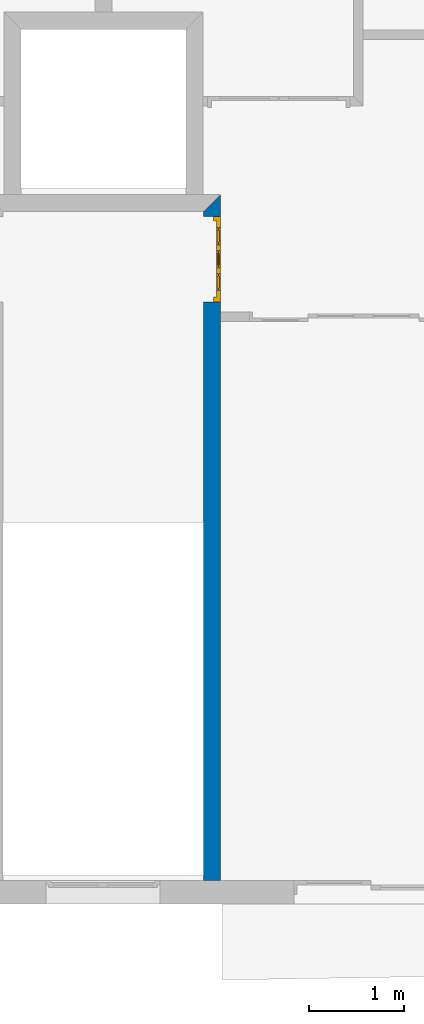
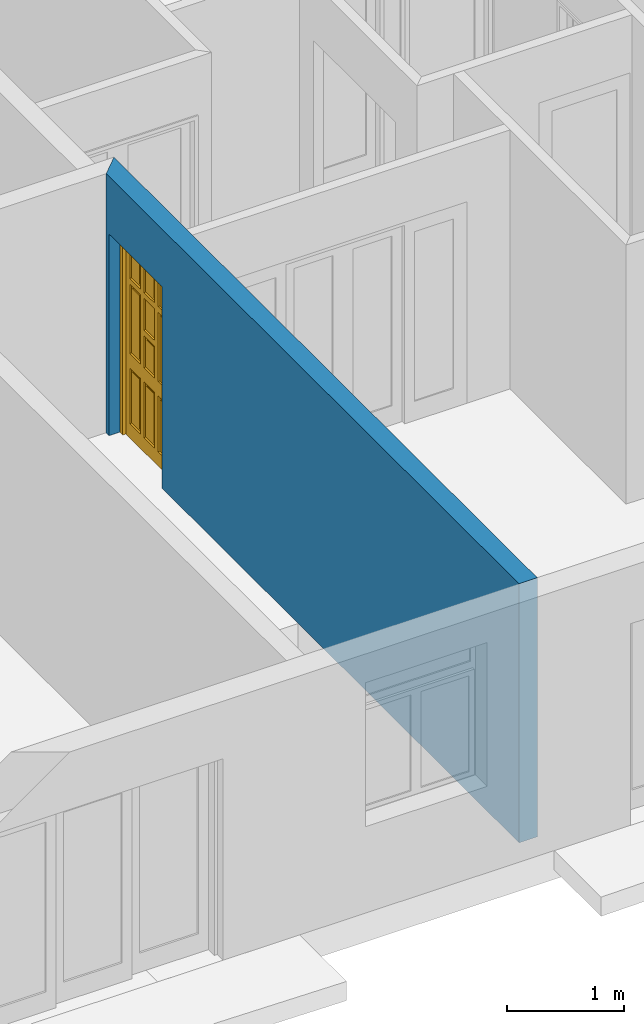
# One storey, part 7 of 12: 1 door, 1 wall, 1 opening.
"""IFC2X3 building model written with IfcOpenShell, lengths in metres."""

from ifc_helpers import new_model, entity, si_unit, converted_unit, direction, frame, frame_2d, origin_with_axes, place, context, project, spatial, polyline, rectangle, outline, extrude, faceted_brep, source, transform, mapped, material, layer, layer_set, layer_usage, type_object, element, fill, save


model = new_model("IFC2X3")

# Units and contexts
context_of_model = context(None, 3, precision=1e-05, world=origin_with_axes(), true_north=direction((6.123234e-17, 1.0)))
plan_context = context("Plan", 3, precision=1e-05, world=origin_with_axes(), true_north=direction((6.123234e-17, 1.0)))
model_context = context("Model", 3, precision=1e-05, world=origin_with_axes(), true_north=direction((6.123234e-17, 1.0)))
ifc_project = project(units=[si_unit("LENGTHUNIT", "METRE"), si_unit("AREAUNIT", "SQUARE_METRE"), si_unit("VOLUMEUNIT", "CUBIC_METRE"), converted_unit("PLANEANGLEUNIT", "DEGREE", entity("IfcPlaneAngleMeasure", 0.017453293), si_unit("PLANEANGLEUNIT", "RADIAN"), dimensions=[0, 0, 0, 0, 0, 0, 0]), si_unit("SOLIDANGLEUNIT", "STERADIAN"), si_unit("MASSUNIT", "GRAM"), si_unit("TIMEUNIT", "SECOND"), si_unit("THERMODYNAMICTEMPERATUREUNIT", "DEGREE_CELSIUS"), si_unit("LUMINOUSINTENSITYUNIT", "LUMEN")], contexts=[context_of_model, plan_context, model_context])

# Site, building, storey
site_placement = place(None, origin_with_axes())
site = spatial("IfcSite", under=ifc_project, at=site_placement, Name="Por defecto Sitio", CompositionType="ELEMENT")
building_placement = place(site_placement, origin_with_axes())
building = spatial("IfcBuilding", under=site, at=building_placement, Name="Por defecto Edificio", CompositionType="ELEMENT")
storey_placement = place(building_placement, frame((0.0, 0.0, 4.2), z_axis=(0.0, 0.0, 1.0), x_axis=(1.0, 0.0, 0.0)))
storey = spatial("IfcBuildingStorey", under=building, at=storey_placement, Name="Primera", CompositionType="ELEMENT", Elevation=4.2)

# Wall, opening, door
ifc_material = material(Name="Ladrillo común")
ifc_layer = layer(ifc_material, 0.18, ventilated="UNKNOWN")
ifc_layer_set = layer_set([ifc_layer], Name="Ladrillo común")
ifc_layer_usage = layer_usage(ifc_layer_set, "AXIS2", "POSITIVE", 0.0)
wall_type = type_object("IfcWallType", Name="Ladrillo común", PredefinedType="NOTDEFINED")
wall_placement = place(storey_placement, frame((9.0691698, 7.2976562, 0.0), z_axis=(0.0, 0.0, 1.0), x_axis=(0.0, -1.0, 0.0)))
wall = element("IfcWallStandardCase", 1, at=wall_placement, inside=storey, type_object=wall_type, material=ifc_layer_usage, Name="Muro-010", context=context_of_model, shape_type="SweptSolid", body=[
    extrude(outline(polyline([(0.0, 0.0), (7.0476562, 0.0), (7.0476562, 0.18), (-0.18, 0.18), (0.0, 0.0)])), origin_with_axes(), (0.0, 0.0, 1.0), 2.7),
])
opening_placement = place(wall_placement, frame((0.5, 0.0, 0.0), z_axis=(0.0, 0.0, 1.0), x_axis=(1.0, 0.0, 0.0)))
opening = element("IfcOpeningElement", 2, at=opening_placement, cuts=wall, ObjectType="Opening", context=model_context, shape_type="SweptSolid", body=[
    extrude(rectangle(XDim=0.9, YDim=2.1, at=frame_2d((0.0, 1.05), x_axis=(-1.0, 0.0))), frame((0.0, 0.0, 0.0), z_axis=(0.0, 1.0, 0.0), x_axis=(-1.0, 0.0, 0.0)), (0.0, 0.0, 1.0), 0.18),
])
door_style = type_object("IfcDoorStyle", Name="P1 Entrada 12", ConstructionType="NOTDEFINED", OperationType="SINGLE_SWING_RIGHT", ParameterTakesPrecedence=False, Sizeable=False)
shared_shape = source(origin_with_axes(), model_context, "Body", "Brep", [
    faceted_brep([(0.05, 0.031, 0.0), (0.05, 0.031, 2.05), (0.05, 0.0, 2.05), (0.05, 0.0, 0.0), (0.038, 0.031, 2.05), (0.038, 0.031, 0.0), (0.038, 0.075, 2.05), (0.0, 0.075, 2.05), (0.0, 0.0, 2.05), (0.0, 0.0, 0.0), (0.0, 0.075, 0.0), (0.038, 0.075, 0.0)], [[[0, 1, 2, 3]], [[4, 1, 0, 5]], [[4, 6, 7, 8, 2, 1]], [[9, 3, 2, 8]], [[5, 0, 3, 9, 10, 11]], [[6, 4, 5, 11]], [[6, 11, 10, 7]], [[8, 7, 10, 9]]]),
    faceted_brep([(0.862, 0.031, 2.05), (0.85, 0.031, 2.05), (0.85, 0.0, 2.05), (0.9, 0.0, 2.05), (0.9, 0.075, 2.05), (0.862, 0.075, 2.05), (0.862, 0.031, 0.0), (0.85, 0.031, 0.0), (0.85, 0.0, 0.0), (0.9, 0.0, 0.0), (0.9, 0.075, 0.0), (0.862, 0.075, 0.0)], [[[0, 1, 2, 3, 4, 5]], [[1, 0, 6, 7]], [[1, 7, 8, 2]], [[8, 9, 3, 2]], [[9, 10, 4, 3]], [[11, 5, 4, 10]], [[0, 5, 11, 6]], [[6, 11, 10, 9, 8, 7]]]),
    faceted_brep([(0.038, 0.075, 2.062), (0.038, 0.075, 2.05), (0.0, 0.075, 2.05), (0.0, 0.075, 2.1), (0.9, 0.075, 2.1), (0.9, 0.075, 2.05), (0.862, 0.075, 2.05), (0.862, 0.075, 2.062), (0.038, 0.031, 2.062), (0.038, 0.031, 2.05), (0.05, 0.031, 2.05), (0.05, 0.0, 2.05), (0.0, 0.0, 2.05), (0.0, 0.0, 2.1), (0.9, 0.0, 2.1), (0.9, 0.0, 2.05), (0.862, 0.031, 2.05), (0.85, 0.0, 2.05), (0.85, 0.031, 2.05), (0.862, 0.031, 2.062)], [[[0, 1, 2, 3, 4, 5, 6, 7]], [[1, 0, 8, 9]], [[9, 10, 11, 12, 2, 1]], [[13, 3, 2, 12]], [[14, 4, 3, 13]], [[15, 5, 4, 14]], [[16, 6, 5, 15, 17, 18]], [[7, 6, 16, 19]], [[0, 7, 19, 8]], [[16, 18, 10, 9, 8, 19]], [[10, 18, 17, 11]], [[14, 13, 12, 11, 17, 15]]]),
    faceted_brep([(0.862, 0.075, 0.15), (0.862, 0.031, 0.15), (0.782, 0.031, 0.15), (0.782, 0.075, 0.15), (0.862, 0.075, 1.952), (0.862, 0.031, 1.952), (0.782, 0.031, 1.952), (0.782, 0.031, 1.6618667), (0.782, 0.031, 1.6018667), (0.782, 0.031, 0.88), (0.782, 0.031, 0.73), (0.782, 0.075, 0.73), (0.782, 0.075, 0.88), (0.782, 0.075, 1.6018667), (0.782, 0.075, 1.6618667), (0.782, 0.075, 1.952)], [[[0, 1, 2, 3]], [[4, 5, 1, 0]], [[1, 5, 6, 7, 8, 9, 10, 2]], [[3, 2, 10, 11]], [[0, 3, 11, 12, 13, 14, 15, 4]], [[15, 6, 5, 4]], [[14, 7, 6, 15]], [[13, 8, 7, 14]], [[12, 9, 8, 13]], [[11, 10, 9, 12]]]),
    faceted_brep([(0.038, 0.075, 0.15), (0.038, 0.031, 0.15), (0.038, 0.031, 1.952), (0.038, 0.075, 1.952), (0.118, 0.075, 0.15), (0.118, 0.031, 0.15), (0.118, 0.031, 0.73), (0.118, 0.031, 0.88), (0.118, 0.031, 1.6018667), (0.118, 0.031, 1.6618667), (0.118, 0.031, 1.952), (0.118, 0.075, 1.952), (0.118, 0.075, 1.6618667), (0.118, 0.075, 1.6018667), (0.118, 0.075, 0.88), (0.118, 0.075, 0.73)], [[[0, 1, 2, 3]], [[4, 5, 1, 0]], [[1, 5, 6, 7, 8, 9, 10, 2]], [[3, 2, 10, 11]], [[0, 3, 11, 12, 13, 14, 15, 4]], [[15, 6, 5, 4]], [[14, 7, 6, 15]], [[13, 8, 7, 14]], [[12, 9, 8, 13]], [[11, 10, 9, 12]]]),
    faceted_brep([(0.862, 0.075, 0.0), (0.862, 0.031, 0.0), (0.038, 0.031, 0.0), (0.038, 0.075, 0.0), (0.862, 0.075, 0.15), (0.862, 0.031, 0.15), (0.782, 0.031, 0.15), (0.60066667, 0.031, 0.15), (0.54066667, 0.031, 0.15), (0.35933333, 0.031, 0.15), (0.29933333, 0.031, 0.15), (0.118, 0.031, 0.15), (0.038, 0.031, 0.15), (0.038, 0.075, 0.15), (0.118, 0.075, 0.15), (0.29933333, 0.075, 0.15), (0.35933333, 0.075, 0.15), (0.54066667, 0.075, 0.15), (0.60066667, 0.075, 0.15), (0.782, 0.075, 0.15)], [[[0, 1, 2, 3]], [[4, 5, 1, 0]], [[1, 5, 6, 7, 8, 9, 10, 11, 12, 2]], [[3, 2, 12, 13]], [[0, 3, 13, 14, 15, 16, 17, 18, 19, 4]], [[19, 6, 5, 4]], [[18, 7, 6, 19]], [[17, 8, 7, 18]], [[16, 9, 8, 17]], [[15, 10, 9, 16]], [[14, 11, 10, 15]], [[13, 12, 11, 14]]]),
    faceted_brep([(0.862, 0.075, 2.062), (0.862, 0.031, 2.062), (0.862, 0.031, 1.952), (0.862, 0.075, 1.952), (0.038, 0.075, 2.062), (0.038, 0.031, 2.062), (0.038, 0.031, 1.952), (0.118, 0.031, 1.952), (0.29933333, 0.031, 1.952), (0.35933333, 0.031, 1.952), (0.54066667, 0.031, 1.952), (0.60066667, 0.031, 1.952), (0.782, 0.031, 1.952), (0.782, 0.075, 1.952), (0.60066667, 0.075, 1.952), (0.54066667, 0.075, 1.952), (0.35933333, 0.075, 1.952), (0.29933333, 0.075, 1.952), (0.118, 0.075, 1.952), (0.038, 0.075, 1.952)], [[[0, 1, 2, 3]], [[4, 5, 1, 0]], [[1, 5, 6, 7, 8, 9, 10, 11, 12, 2]], [[3, 2, 12, 13]], [[0, 3, 13, 14, 15, 16, 17, 18, 19, 4]], [[19, 6, 5, 4]], [[18, 7, 6, 19]], [[17, 8, 7, 18]], [[16, 9, 8, 17]], [[15, 10, 9, 16]], [[14, 11, 10, 15]], [[13, 12, 11, 14]]]),
    faceted_brep([(0.54066667, 0.075, 0.15), (0.54066667, 0.031, 0.15), (0.54066667, 0.031, 0.73), (0.54066667, 0.075, 0.73), (0.60066667, 0.075, 0.15), (0.60066667, 0.031, 0.15), (0.60066667, 0.031, 0.73), (0.60066667, 0.075, 0.73)], [[[0, 1, 2, 3]], [[4, 5, 1, 0]], [[1, 5, 6, 2]], [[3, 2, 6, 7]], [[0, 3, 7, 4]], [[7, 6, 5, 4]]]),
    faceted_brep([(0.54066667, 0.075, 0.88), (0.54066667, 0.031, 0.88), (0.54066667, 0.031, 1.2109333), (0.54066667, 0.075, 1.2109333), (0.60066667, 0.075, 0.88), (0.60066667, 0.031, 0.88), (0.60066667, 0.031, 1.6018667), (0.54066667, 0.031, 1.6018667), (0.54066667, 0.031, 1.2709333), (0.54066667, 0.075, 1.2709333), (0.54066667, 0.075, 1.6018667), (0.60066667, 0.075, 1.6018667)], [[[0, 1, 2, 3]], [[4, 5, 1, 0]], [[1, 5, 6, 7, 8, 2]], [[3, 2, 8, 9]], [[0, 3, 9, 10, 11, 4]], [[11, 6, 5, 4]], [[10, 7, 6, 11]], [[9, 8, 7, 10]]]),
    faceted_brep([(0.54066667, 0.075, 1.6618667), (0.54066667, 0.031, 1.6618667), (0.54066667, 0.031, 1.952), (0.54066667, 0.075, 1.952), (0.60066667, 0.075, 1.6618667), (0.60066667, 0.031, 1.6618667), (0.60066667, 0.031, 1.952), (0.60066667, 0.075, 1.952)], [[[0, 1, 2, 3]], [[4, 5, 1, 0]], [[1, 5, 6, 2]], [[3, 2, 6, 7]], [[0, 3, 7, 4]], [[7, 6, 5, 4]]]),
    faceted_brep([(0.29933333, 0.075, 0.15), (0.29933333, 0.031, 0.15), (0.29933333, 0.031, 0.73), (0.29933333, 0.075, 0.73), (0.35933333, 0.075, 0.15), (0.35933333, 0.031, 0.15), (0.35933333, 0.031, 0.73), (0.35933333, 0.075, 0.73)], [[[0, 1, 2, 3]], [[4, 5, 1, 0]], [[1, 5, 6, 2]], [[3, 2, 6, 7]], [[0, 3, 7, 4]], [[7, 6, 5, 4]]]),
    faceted_brep([(0.29933333, 0.075, 0.88), (0.29933333, 0.031, 0.88), (0.29933333, 0.031, 1.6018667), (0.29933333, 0.075, 1.6018667), (0.35933333, 0.075, 0.88), (0.35933333, 0.031, 0.88), (0.35933333, 0.031, 1.2109333), (0.35933333, 0.031, 1.2709333), (0.35933333, 0.031, 1.6018667), (0.35933333, 0.075, 1.6018667), (0.35933333, 0.075, 1.2709333), (0.35933333, 0.075, 1.2109333)], [[[0, 1, 2, 3]], [[4, 5, 1, 0]], [[1, 5, 6, 7, 8, 2]], [[3, 2, 8, 9]], [[0, 3, 9, 10, 11, 4]], [[11, 6, 5, 4]], [[10, 7, 6, 11]], [[9, 8, 7, 10]]]),
    faceted_brep([(0.29933333, 0.075, 1.6618667), (0.29933333, 0.031, 1.6618667), (0.29933333, 0.031, 1.952), (0.29933333, 0.075, 1.952), (0.35933333, 0.075, 1.6618667), (0.35933333, 0.031, 1.6618667), (0.35933333, 0.031, 1.952), (0.35933333, 0.075, 1.952)], [[[0, 1, 2, 3]], [[4, 5, 1, 0]], [[1, 5, 6, 2]], [[3, 2, 6, 7]], [[0, 3, 7, 4]], [[7, 6, 5, 4]]]),
    faceted_brep([(0.782, 0.075, 1.6018667), (0.782, 0.031, 1.6018667), (0.60066667, 0.031, 1.6018667), (0.60066667, 0.075, 1.6018667), (0.782, 0.075, 1.6618667), (0.782, 0.031, 1.6618667), (0.60066667, 0.031, 1.6618667), (0.54066667, 0.031, 1.6618667), (0.35933333, 0.031, 1.6618667), (0.29933333, 0.031, 1.6618667), (0.118, 0.031, 1.6618667), (0.118, 0.031, 1.6018667), (0.29933333, 0.031, 1.6018667), (0.35933333, 0.031, 1.6018667), (0.54066667, 0.031, 1.6018667), (0.54066667, 0.075, 1.6018667), (0.35933333, 0.075, 1.6018667), (0.29933333, 0.075, 1.6018667), (0.118, 0.075, 1.6018667), (0.118, 0.075, 1.6618667), (0.29933333, 0.075, 1.6618667), (0.35933333, 0.075, 1.6618667), (0.54066667, 0.075, 1.6618667), (0.60066667, 0.075, 1.6618667)], [[[0, 1, 2, 3]], [[4, 5, 1, 0]], [[1, 5, 6, 7, 8, 9, 10, 11, 12, 13, 14, 2]], [[3, 2, 14, 15]], [[0, 3, 15, 16, 17, 18, 19, 20, 21, 22, 23, 4]], [[23, 6, 5, 4]], [[22, 7, 6, 23]], [[21, 8, 7, 22]], [[20, 9, 8, 21]], [[19, 10, 9, 20]], [[18, 11, 10, 19]], [[17, 12, 11, 18]], [[16, 13, 12, 17]], [[15, 14, 13, 16]]]),
    faceted_brep([(0.35933333, 0.075, 1.2109333), (0.35933333, 0.031, 1.2109333), (0.35933333, 0.031, 1.2709333), (0.35933333, 0.075, 1.2709333), (0.54066667, 0.075, 1.2109333), (0.54066667, 0.031, 1.2109333), (0.54066667, 0.031, 1.2709333), (0.54066667, 0.075, 1.2709333)], [[[0, 1, 2, 3]], [[4, 5, 1, 0]], [[1, 5, 6, 2]], [[3, 2, 6, 7]], [[0, 3, 7, 4]], [[7, 6, 5, 4]]]),
    faceted_brep([(0.782, 0.075, 0.73), (0.782, 0.031, 0.73), (0.60066667, 0.031, 0.73), (0.60066667, 0.075, 0.73), (0.782, 0.075, 0.88), (0.782, 0.031, 0.88), (0.60066667, 0.031, 0.88), (0.54066667, 0.031, 0.88), (0.35933333, 0.031, 0.88), (0.29933333, 0.031, 0.88), (0.118, 0.031, 0.88), (0.118, 0.031, 0.73), (0.29933333, 0.031, 0.73), (0.35933333, 0.031, 0.73), (0.54066667, 0.031, 0.73), (0.54066667, 0.075, 0.73), (0.35933333, 0.075, 0.73), (0.29933333, 0.075, 0.73), (0.118, 0.075, 0.73), (0.118, 0.075, 0.88), (0.29933333, 0.075, 0.88), (0.35933333, 0.075, 0.88), (0.54066667, 0.075, 0.88), (0.60066667, 0.075, 0.88)], [[[0, 1, 2, 3]], [[4, 5, 1, 0]], [[1, 5, 6, 7, 8, 9, 10, 11, 12, 13, 14, 2]], [[3, 2, 14, 15]], [[0, 3, 15, 16, 17, 18, 19, 20, 21, 22, 23, 4]], [[23, 6, 5, 4]], [[22, 7, 6, 23]], [[21, 8, 7, 22]], [[20, 9, 8, 21]], [[19, 10, 9, 20]], [[18, 11, 10, 19]], [[17, 12, 11, 18]], [[16, 13, 12, 17]], [[15, 14, 13, 16]]]),
    faceted_brep([(0.782, 0.058, 0.15), (0.782, 0.048, 0.15), (0.60066667, 0.048, 0.15), (0.60066667, 0.058, 0.15), (0.782, 0.058, 0.73), (0.782, 0.048, 0.73), (0.60066667, 0.048, 0.73), (0.60066667, 0.058, 0.73)], [[[0, 1, 2, 3]], [[4, 5, 1, 0]], [[1, 5, 6, 2]], [[3, 2, 6, 7]], [[0, 3, 7, 4]], [[7, 6, 5, 4]]]),
    faceted_brep([(0.54066667, 0.058, 0.15), (0.54066667, 0.048, 0.15), (0.35933333, 0.048, 0.15), (0.35933333, 0.058, 0.15), (0.54066667, 0.058, 0.73), (0.54066667, 0.048, 0.73), (0.35933333, 0.048, 0.73), (0.35933333, 0.058, 0.73)], [[[0, 1, 2, 3]], [[4, 5, 1, 0]], [[1, 5, 6, 2]], [[3, 2, 6, 7]], [[0, 3, 7, 4]], [[7, 6, 5, 4]]]),
    faceted_brep([(0.29933333, 0.058, 0.15), (0.29933333, 0.048, 0.15), (0.118, 0.048, 0.15), (0.118, 0.058, 0.15), (0.29933333, 0.058, 0.73), (0.29933333, 0.048, 0.73), (0.118, 0.048, 0.73), (0.118, 0.058, 0.73)], [[[0, 1, 2, 3]], [[4, 5, 1, 0]], [[1, 5, 6, 2]], [[3, 2, 6, 7]], [[0, 3, 7, 4]], [[7, 6, 5, 4]]]),
    faceted_brep([(0.782, 0.058, 1.6618667), (0.782, 0.048, 1.6618667), (0.60066667, 0.048, 1.6618667), (0.60066667, 0.058, 1.6618667), (0.782, 0.058, 1.952), (0.782, 0.048, 1.952), (0.60066667, 0.048, 1.952), (0.60066667, 0.058, 1.952)], [[[0, 1, 2, 3]], [[4, 5, 1, 0]], [[1, 5, 6, 2]], [[3, 2, 6, 7]], [[0, 3, 7, 4]], [[7, 6, 5, 4]]]),
    faceted_brep([(0.54066667, 0.058, 1.6618667), (0.54066667, 0.048, 1.6618667), (0.35933333, 0.048, 1.6618667), (0.35933333, 0.058, 1.6618667), (0.54066667, 0.058, 1.952), (0.54066667, 0.048, 1.952), (0.35933333, 0.048, 1.952), (0.35933333, 0.058, 1.952)], [[[0, 1, 2, 3]], [[4, 5, 1, 0]], [[1, 5, 6, 2]], [[3, 2, 6, 7]], [[0, 3, 7, 4]], [[7, 6, 5, 4]]]),
    faceted_brep([(0.29933333, 0.058, 1.6618667), (0.29933333, 0.048, 1.6618667), (0.118, 0.048, 1.6618667), (0.118, 0.058, 1.6618667), (0.29933333, 0.058, 1.952), (0.29933333, 0.048, 1.952), (0.118, 0.048, 1.952), (0.118, 0.058, 1.952)], [[[0, 1, 2, 3]], [[4, 5, 1, 0]], [[1, 5, 6, 2]], [[3, 2, 6, 7]], [[0, 3, 7, 4]], [[7, 6, 5, 4]]]),
    faceted_brep([(0.782, 0.058, 0.88), (0.782, 0.048, 0.88), (0.60066667, 0.048, 0.88), (0.60066667, 0.058, 0.88), (0.782, 0.058, 1.6018667), (0.782, 0.048, 1.6018667), (0.60066667, 0.048, 1.6018667), (0.60066667, 0.058, 1.6018667)], [[[0, 1, 2, 3]], [[4, 5, 1, 0]], [[1, 5, 6, 2]], [[3, 2, 6, 7]], [[0, 3, 7, 4]], [[7, 6, 5, 4]]]),
    faceted_brep([(0.54066667, 0.058, 0.88), (0.54066667, 0.048, 0.88), (0.35933333, 0.048, 0.88), (0.35933333, 0.058, 0.88), (0.54066667, 0.058, 1.2109333), (0.54066667, 0.048, 1.2109333), (0.35933333, 0.048, 1.2109333), (0.35933333, 0.058, 1.2109333)], [[[0, 1, 2, 3]], [[4, 5, 1, 0]], [[1, 5, 6, 2]], [[3, 2, 6, 7]], [[0, 3, 7, 4]], [[7, 6, 5, 4]]]),
    faceted_brep([(0.29933333, 0.058, 0.88), (0.29933333, 0.048, 0.88), (0.118, 0.048, 0.88), (0.118, 0.058, 0.88), (0.29933333, 0.058, 1.6018667), (0.29933333, 0.048, 1.6018667), (0.118, 0.048, 1.6018667), (0.118, 0.058, 1.6018667)], [[[0, 1, 2, 3]], [[4, 5, 1, 0]], [[1, 5, 6, 2]], [[3, 2, 6, 7]], [[0, 3, 7, 4]], [[7, 6, 5, 4]]]),
    faceted_brep([(0.54066667, 0.058, 1.2709333), (0.54066667, 0.048, 1.2709333), (0.35933333, 0.048, 1.2709333), (0.35933333, 0.058, 1.2709333), (0.54066667, 0.058, 1.6018667), (0.54066667, 0.048, 1.6018667), (0.35933333, 0.048, 1.6018667), (0.35933333, 0.058, 1.6018667)], [[[0, 1, 2, 3]], [[4, 5, 1, 0]], [[1, 5, 6, 2]], [[3, 2, 6, 7]], [[0, 3, 7, 4]], [[7, 6, 5, 4]]]),
    faceted_brep([(0.752, 0.066, 0.18), (0.752, 0.058, 0.18), (0.63066667, 0.058, 0.18), (0.63066667, 0.066, 0.18), (0.752, 0.066, 0.7), (0.752, 0.058, 0.7), (0.63066667, 0.058, 0.7), (0.63066667, 0.066, 0.7)], [[[0, 1, 2, 3]], [[4, 5, 1, 0]], [[1, 5, 6, 2]], [[3, 2, 6, 7]], [[0, 3, 7, 4]], [[7, 6, 5, 4]]]),
    faceted_brep([(0.51066667, 0.066, 0.18), (0.51066667, 0.058, 0.18), (0.38933333, 0.058, 0.18), (0.38933333, 0.066, 0.18), (0.51066667, 0.066, 0.7), (0.51066667, 0.058, 0.7), (0.38933333, 0.058, 0.7), (0.38933333, 0.066, 0.7)], [[[0, 1, 2, 3]], [[4, 5, 1, 0]], [[1, 5, 6, 2]], [[3, 2, 6, 7]], [[0, 3, 7, 4]], [[7, 6, 5, 4]]]),
    faceted_brep([(0.26933333, 0.066, 0.18), (0.26933333, 0.058, 0.18), (0.148, 0.058, 0.18), (0.148, 0.066, 0.18), (0.26933333, 0.066, 0.7), (0.26933333, 0.058, 0.7), (0.148, 0.058, 0.7), (0.148, 0.066, 0.7)], [[[0, 1, 2, 3]], [[4, 5, 1, 0]], [[1, 5, 6, 2]], [[3, 2, 6, 7]], [[0, 3, 7, 4]], [[7, 6, 5, 4]]]),
    faceted_brep([(0.752, 0.066, 1.6918667), (0.752, 0.058, 1.6918667), (0.63066667, 0.058, 1.6918667), (0.63066667, 0.066, 1.6918667), (0.752, 0.066, 1.922), (0.752, 0.058, 1.922), (0.63066667, 0.058, 1.922), (0.63066667, 0.066, 1.922)], [[[0, 1, 2, 3]], [[4, 5, 1, 0]], [[1, 5, 6, 2]], [[3, 2, 6, 7]], [[0, 3, 7, 4]], [[7, 6, 5, 4]]]),
    faceted_brep([(0.51066667, 0.066, 1.6918667), (0.51066667, 0.058, 1.6918667), (0.38933333, 0.058, 1.6918667), (0.38933333, 0.066, 1.6918667), (0.51066667, 0.066, 1.922), (0.51066667, 0.058, 1.922), (0.38933333, 0.058, 1.922), (0.38933333, 0.066, 1.922)], [[[0, 1, 2, 3]], [[4, 5, 1, 0]], [[1, 5, 6, 2]], [[3, 2, 6, 7]], [[0, 3, 7, 4]], [[7, 6, 5, 4]]]),
    faceted_brep([(0.26933333, 0.066, 1.6918667), (0.26933333, 0.058, 1.6918667), (0.148, 0.058, 1.6918667), (0.148, 0.066, 1.6918667), (0.26933333, 0.066, 1.922), (0.26933333, 0.058, 1.922), (0.148, 0.058, 1.922), (0.148, 0.066, 1.922)], [[[0, 1, 2, 3]], [[4, 5, 1, 0]], [[1, 5, 6, 2]], [[3, 2, 6, 7]], [[0, 3, 7, 4]], [[7, 6, 5, 4]]]),
    faceted_brep([(0.752, 0.066, 0.91), (0.752, 0.058, 0.91), (0.63066667, 0.058, 0.91), (0.63066667, 0.066, 0.91), (0.752, 0.066, 1.5718667), (0.752, 0.058, 1.5718667), (0.63066667, 0.058, 1.5718667), (0.63066667, 0.066, 1.5718667)], [[[0, 1, 2, 3]], [[4, 5, 1, 0]], [[1, 5, 6, 2]], [[3, 2, 6, 7]], [[0, 3, 7, 4]], [[7, 6, 5, 4]]]),
    faceted_brep([(0.51066667, 0.066, 0.91), (0.51066667, 0.058, 0.91), (0.38933333, 0.058, 0.91), (0.38933333, 0.066, 0.91), (0.51066667, 0.066, 1.1809333), (0.51066667, 0.058, 1.1809333), (0.38933333, 0.058, 1.1809333), (0.38933333, 0.066, 1.1809333)], [[[0, 1, 2, 3]], [[4, 5, 1, 0]], [[1, 5, 6, 2]], [[3, 2, 6, 7]], [[0, 3, 7, 4]], [[7, 6, 5, 4]]]),
    faceted_brep([(0.26933333, 0.066, 0.91), (0.26933333, 0.058, 0.91), (0.148, 0.058, 0.91), (0.148, 0.066, 0.91), (0.26933333, 0.066, 1.5718667), (0.26933333, 0.058, 1.5718667), (0.148, 0.058, 1.5718667), (0.148, 0.066, 1.5718667)], [[[0, 1, 2, 3]], [[4, 5, 1, 0]], [[1, 5, 6, 2]], [[3, 2, 6, 7]], [[0, 3, 7, 4]], [[7, 6, 5, 4]]]),
    faceted_brep([(0.752, 0.048, 0.18), (0.752, 0.04, 0.18), (0.63066667, 0.04, 0.18), (0.63066667, 0.048, 0.18), (0.752, 0.048, 0.7), (0.752, 0.04, 0.7), (0.63066667, 0.04, 0.7), (0.63066667, 0.048, 0.7)], [[[0, 1, 2, 3]], [[4, 5, 1, 0]], [[1, 5, 6, 2]], [[3, 2, 6, 7]], [[0, 3, 7, 4]], [[7, 6, 5, 4]]]),
    faceted_brep([(0.51066667, 0.048, 0.18), (0.51066667, 0.04, 0.18), (0.38933333, 0.04, 0.18), (0.38933333, 0.048, 0.18), (0.51066667, 0.048, 0.7), (0.51066667, 0.04, 0.7), (0.38933333, 0.04, 0.7), (0.38933333, 0.048, 0.7)], [[[0, 1, 2, 3]], [[4, 5, 1, 0]], [[1, 5, 6, 2]], [[3, 2, 6, 7]], [[0, 3, 7, 4]], [[7, 6, 5, 4]]]),
    faceted_brep([(0.26933333, 0.048, 0.18), (0.26933333, 0.04, 0.18), (0.148, 0.04, 0.18), (0.148, 0.048, 0.18), (0.26933333, 0.048, 0.7), (0.26933333, 0.04, 0.7), (0.148, 0.04, 0.7), (0.148, 0.048, 0.7)], [[[0, 1, 2, 3]], [[4, 5, 1, 0]], [[1, 5, 6, 2]], [[3, 2, 6, 7]], [[0, 3, 7, 4]], [[7, 6, 5, 4]]]),
    faceted_brep([(0.752, 0.048, 1.6918667), (0.752, 0.04, 1.6918667), (0.63066667, 0.04, 1.6918667), (0.63066667, 0.048, 1.6918667), (0.752, 0.048, 1.922), (0.752, 0.04, 1.922), (0.63066667, 0.04, 1.922), (0.63066667, 0.048, 1.922)], [[[0, 1, 2, 3]], [[4, 5, 1, 0]], [[1, 5, 6, 2]], [[3, 2, 6, 7]], [[0, 3, 7, 4]], [[7, 6, 5, 4]]]),
    faceted_brep([(0.51066667, 0.048, 1.6918667), (0.51066667, 0.04, 1.6918667), (0.38933333, 0.04, 1.6918667), (0.38933333, 0.048, 1.6918667), (0.51066667, 0.048, 1.922), (0.51066667, 0.04, 1.922), (0.38933333, 0.04, 1.922), (0.38933333, 0.048, 1.922)], [[[0, 1, 2, 3]], [[4, 5, 1, 0]], [[1, 5, 6, 2]], [[3, 2, 6, 7]], [[0, 3, 7, 4]], [[7, 6, 5, 4]]]),
    faceted_brep([(0.26933333, 0.048, 1.6918667), (0.26933333, 0.04, 1.6918667), (0.148, 0.04, 1.6918667), (0.148, 0.048, 1.6918667), (0.26933333, 0.048, 1.922), (0.26933333, 0.04, 1.922), (0.148, 0.04, 1.922), (0.148, 0.048, 1.922)], [[[0, 1, 2, 3]], [[4, 5, 1, 0]], [[1, 5, 6, 2]], [[3, 2, 6, 7]], [[0, 3, 7, 4]], [[7, 6, 5, 4]]]),
    faceted_brep([(0.752, 0.048, 0.91), (0.752, 0.04, 0.91), (0.63066667, 0.04, 0.91), (0.63066667, 0.048, 0.91), (0.752, 0.048, 1.5718667), (0.752, 0.04, 1.5718667), (0.63066667, 0.04, 1.5718667), (0.63066667, 0.048, 1.5718667)], [[[0, 1, 2, 3]], [[4, 5, 1, 0]], [[1, 5, 6, 2]], [[3, 2, 6, 7]], [[0, 3, 7, 4]], [[7, 6, 5, 4]]]),
    faceted_brep([(0.51066667, 0.048, 0.91), (0.51066667, 0.04, 0.91), (0.38933333, 0.04, 0.91), (0.38933333, 0.048, 0.91), (0.51066667, 0.048, 1.1809333), (0.51066667, 0.04, 1.1809333), (0.38933333, 0.04, 1.1809333), (0.38933333, 0.048, 1.1809333)], [[[0, 1, 2, 3]], [[4, 5, 1, 0]], [[1, 5, 6, 2]], [[3, 2, 6, 7]], [[0, 3, 7, 4]], [[7, 6, 5, 4]]]),
    faceted_brep([(0.26933333, 0.048, 0.91), (0.26933333, 0.04, 0.91), (0.148, 0.04, 0.91), (0.148, 0.048, 0.91), (0.26933333, 0.048, 1.5718667), (0.26933333, 0.04, 1.5718667), (0.148, 0.04, 1.5718667), (0.148, 0.048, 1.5718667)], [[[0, 1, 2, 3]], [[4, 5, 1, 0]], [[1, 5, 6, 2]], [[3, 2, 6, 7]], [[0, 3, 7, 4]], [[7, 6, 5, 4]]]),
])
door_placement = place(opening_placement, frame((-0.45, 0.105, 0.0), z_axis=(0.0, 0.0, 1.0), x_axis=(1.0, 0.0, 0.0)))
door = element("IfcDoor", 3, at=door_placement, inside=storey, type_object=door_style, Name="P14", OverallHeight=2.1, OverallWidth=0.9, context=model_context, shape_type="MappedRepresentation", body=[
    mapped(shared_shape, transform((0.0, 0.0, 0.0), scale=1.0)),
])
fill(opening, door)

save(model, "model.ifc")
